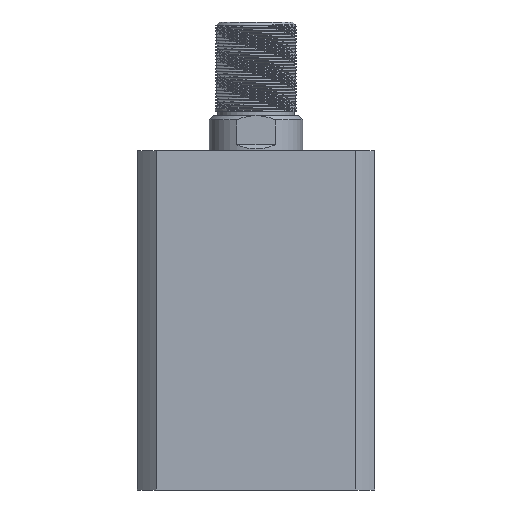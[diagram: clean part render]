
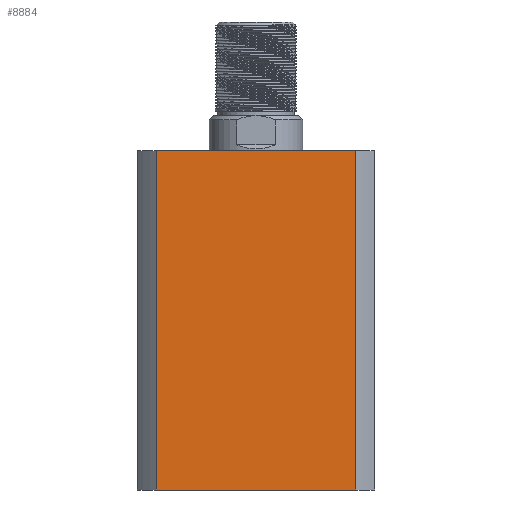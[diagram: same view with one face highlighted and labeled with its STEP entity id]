
A CAD part, left-side view. The second image highlights one B-rep face of the part: STEP entity #8884.
In plain terms, the highlighted planar face has unit normal (-1, 0, 0).
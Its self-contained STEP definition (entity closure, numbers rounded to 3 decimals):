
#107 = CARTESIAN_POINT ( 'NONE',  ( -57., -47.971, 0. ) ) ;
#1208 = CARTESIAN_POINT ( 'NONE',  ( -57., 47.971, 163. ) ) ;
#1568 = VERTEX_POINT ( 'NONE', #5368 ) ;
#2255 = VECTOR ( 'NONE', #18961, 1000. ) ;
#2314 = VERTEX_POINT ( 'NONE', #1208 ) ;
#2492 = DIRECTION ( 'NONE',  ( 0., 0., -1. ) ) ;
#2541 = VERTEX_POINT ( 'NONE', #9577 ) ;
#3035 = CARTESIAN_POINT ( 'NONE',  ( -57., 57., 0. ) ) ;
#4242 = ORIENTED_EDGE ( 'NONE', *, *, #6450, .F. ) ;
#4534 = EDGE_CURVE ( 'NONE', #1568, #12757, #18363, .T. ) ;
#5368 = CARTESIAN_POINT ( 'NONE',  ( -57., -47.971, 163. ) ) ;
#6080 = CARTESIAN_POINT ( 'NONE',  ( -57., 57., 163. ) ) ;
#6371 = EDGE_CURVE ( 'NONE', #2541, #12757, #19043, .T. ) ;
#6450 = EDGE_CURVE ( 'NONE', #2541, #2314, #6464, .T. ) ;
#6464 = LINE ( 'NONE', #7947, #2255 ) ;
#6978 = VECTOR ( 'NONE', #7881, 1000. ) ;
#7571 = CARTESIAN_POINT ( 'NONE',  ( -57., 57., 163. ) ) ;
#7881 = DIRECTION ( 'NONE',  ( 0., -1., 0. ) ) ;
#7947 = CARTESIAN_POINT ( 'NONE',  ( -57., 47.971, -137. ) ) ;
#8147 = ORIENTED_EDGE ( 'NONE', *, *, #11972, .F. ) ;
#8342 = VECTOR ( 'NONE', #10892, 1000. ) ;
#8884 = ADVANCED_FACE ( 'NONE', ( #9840 ), #15383, .F. ) ;
#9577 = CARTESIAN_POINT ( 'NONE',  ( -57., 47.971, 0. ) ) ;
#9840 = FACE_OUTER_BOUND ( 'NONE', #13852, .T. ) ;
#10190 = AXIS2_PLACEMENT_3D ( 'NONE', #7571, #20162, #10728 ) ;
#10728 = DIRECTION ( 'NONE',  ( 0., 1., 0. ) ) ;
#10892 = DIRECTION ( 'NONE',  ( 0., -1., 0. ) ) ;
#11972 = EDGE_CURVE ( 'NONE', #2314, #1568, #12030, .T. ) ;
#12030 = LINE ( 'NONE', #6080, #8342 ) ;
#12757 = VERTEX_POINT ( 'NONE', #107 ) ;
#13852 = EDGE_LOOP ( 'NONE', ( #4242, #19284, #19763, #8147 ) ) ;
#14167 = VECTOR ( 'NONE', #2492, 1000. ) ;
#15383 = PLANE ( 'NONE',  #10190 ) ;
#16688 = CARTESIAN_POINT ( 'NONE',  ( -57., -47.971, -137. ) ) ;
#18363 = LINE ( 'NONE', #16688, #14167 ) ;
#18961 = DIRECTION ( 'NONE',  ( 0., 0., 1. ) ) ;
#19043 = LINE ( 'NONE', #3035, #6978 ) ;
#19284 = ORIENTED_EDGE ( 'NONE', *, *, #6371, .T. ) ;
#19763 = ORIENTED_EDGE ( 'NONE', *, *, #4534, .F. ) ;
#20162 = DIRECTION ( 'NONE',  ( 1., 0., 0. ) ) ;
